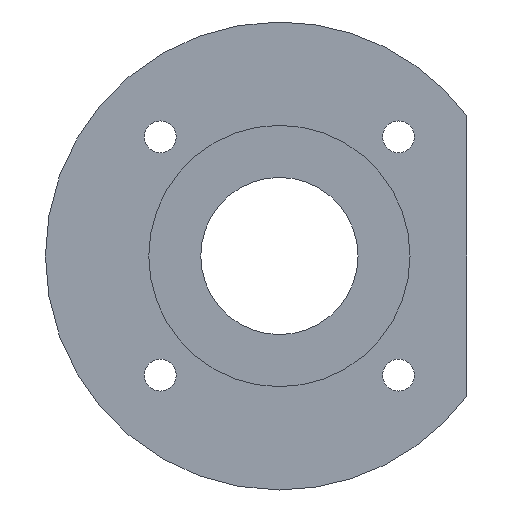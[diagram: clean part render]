
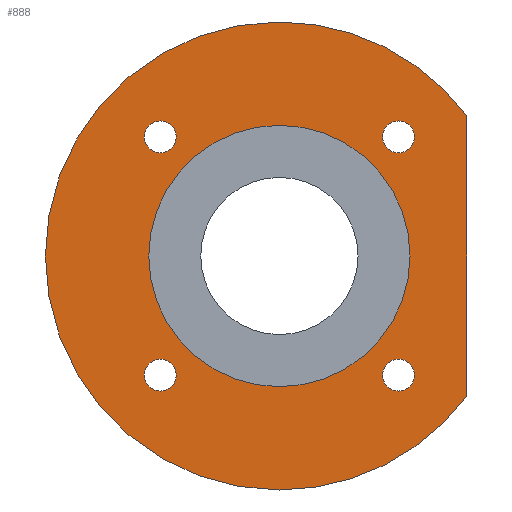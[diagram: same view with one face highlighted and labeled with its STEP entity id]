
A CAD part, left-side view. The second image highlights one B-rep face of the part: STEP entity #888.
In plain terms, the highlighted planar face has unit normal (-1, 0, 0).
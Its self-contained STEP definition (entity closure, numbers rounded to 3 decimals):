
#37 = CARTESIAN_POINT ( 'NONE',  ( 2., 0., -62.5 ) ) ;
#132 = CIRCLE ( 'NONE', #185, 4.25 ) ;
#134 = FACE_BOUND ( 'NONE', #729, .T. ) ;
#135 = FACE_BOUND ( 'NONE', #879, .T. ) ;
#136 = FACE_BOUND ( 'NONE', #931, .T. ) ;
#137 = DIRECTION ( 'NONE',  ( 1., 0., 0. ) ) ;
#138 = CARTESIAN_POINT ( 'NONE',  ( 2., 62.5, 0. ) ) ;
#140 = FACE_OUTER_BOUND ( 'NONE', #1015, .T. ) ;
#145 = PLANE ( 'NONE',  #193 ) ;
#163 = CARTESIAN_POINT ( 'NONE',  ( 2., -50., -37.5 ) ) ;
#167 = CARTESIAN_POINT ( 'NONE',  ( 2., -31.82, 31.82 ) ) ;
#172 = AXIS2_PLACEMENT_3D ( 'NONE', #167, #227, #226 ) ;
#173 = AXIS2_PLACEMENT_3D ( 'NONE', #190, #221, #204 ) ;
#179 = CIRCLE ( 'NONE', #172, 4.25 ) ;
#182 = DIRECTION ( 'NONE',  ( 0., 0., -1. ) ) ;
#183 = DIRECTION ( 'NONE',  ( 1., 0., 0. ) ) ;
#184 = CARTESIAN_POINT ( 'NONE',  ( 2., -31.82, -31.82 ) ) ;
#185 = AXIS2_PLACEMENT_3D ( 'NONE', #184, #183, #182 ) ;
#189 = DIRECTION ( 'NONE',  ( 0., 0., -1. ) ) ;
#190 = CARTESIAN_POINT ( 'NONE',  ( 2., 0., 0. ) ) ;
#193 = AXIS2_PLACEMENT_3D ( 'NONE', #138, #137, #189 ) ;
#194 = FACE_BOUND ( 'NONE', #1033, .T. ) ;
#195 = FACE_BOUND ( 'NONE', #990, .T. ) ;
#204 = DIRECTION ( 'NONE',  ( 0., 0., 1. ) ) ;
#219 = CIRCLE ( 'NONE', #173, 62.5 ) ;
#221 = DIRECTION ( 'NONE',  ( -1., 0., 0. ) ) ;
#226 = DIRECTION ( 'NONE',  ( 0., 0., -1. ) ) ;
#227 = DIRECTION ( 'NONE',  ( 1., 0., 0. ) ) ;
#261 = DIRECTION ( 'NONE',  ( 0., 0., 1. ) ) ;
#262 = DIRECTION ( 'NONE',  ( -1., 0., 0. ) ) ;
#263 = CARTESIAN_POINT ( 'NONE',  ( 2., 0., 0. ) ) ;
#267 = AXIS2_PLACEMENT_3D ( 'NONE', #263, #262, #261 ) ;
#268 = CIRCLE ( 'NONE', #267, 34.9 ) ;
#271 = CARTESIAN_POINT ( 'NONE',  ( 2., 31.82, 31.82 ) ) ;
#296 = LINE ( 'NONE', #334, #333 ) ;
#298 = DIRECTION ( 'NONE',  ( 0., 0., -1. ) ) ;
#299 = DIRECTION ( 'NONE',  ( 1., 0., 0. ) ) ;
#300 = AXIS2_PLACEMENT_3D ( 'NONE', #271, #299, #298 ) ;
#302 = CIRCLE ( 'NONE', #335, 4.25 ) ;
#309 = CIRCLE ( 'NONE', #300, 4.25 ) ;
#324 = DIRECTION ( 'NONE',  ( 0., 0., -1. ) ) ;
#325 = DIRECTION ( 'NONE',  ( 1., 0., 0. ) ) ;
#326 = CARTESIAN_POINT ( 'NONE',  ( 2., 31.82, -31.82 ) ) ;
#332 = DIRECTION ( 'NONE',  ( 0., 0., -1. ) ) ;
#333 = VECTOR ( 'NONE', #332, 1000. ) ;
#334 = CARTESIAN_POINT ( 'NONE',  ( 2., -50., 37.5 ) ) ;
#335 = AXIS2_PLACEMENT_3D ( 'NONE', #326, #325, #324 ) ;
#439 = CARTESIAN_POINT ( 'NONE',  ( 2., 0., 62.5 ) ) ;
#448 = CARTESIAN_POINT ( 'NONE',  ( 2., -50., 37.5 ) ) ;
#478 = CARTESIAN_POINT ( 'NONE',  ( 2., -31.82, -27.57 ) ) ;
#504 = CARTESIAN_POINT ( 'NONE',  ( 2., 31.82, 27.57 ) ) ;
#509 = AXIS2_PLACEMENT_3D ( 'NONE', #512, #514, #513 ) ;
#511 = CIRCLE ( 'NONE', #509, 34.9 ) ;
#512 = CARTESIAN_POINT ( 'NONE',  ( 2., 0., 0. ) ) ;
#513 = DIRECTION ( 'NONE',  ( 0., 0., 1. ) ) ;
#514 = DIRECTION ( 'NONE',  ( -1., 0., 0. ) ) ;
#533 = CARTESIAN_POINT ( 'NONE',  ( 2., 31.82, 36.07 ) ) ;
#553 = CARTESIAN_POINT ( 'NONE',  ( 2., -31.82, -36.07 ) ) ;
#595 = EDGE_CURVE ( 'NONE', #636, #629, #1064, .T. ) ;
#610 = EDGE_CURVE ( 'NONE', #652, #639, #1117, .T. ) ;
#629 = VERTEX_POINT ( 'NONE', #1101 ) ;
#632 = EDGE_CURVE ( 'NONE', #681, #708, #1105, .T. ) ;
#636 = VERTEX_POINT ( 'NONE', #1065 ) ;
#639 = VERTEX_POINT ( 'NONE', #1167 ) ;
#651 = EDGE_CURVE ( 'NONE', #701, #685, #1173, .T. ) ;
#652 = VERTEX_POINT ( 'NONE', #1072 ) ;
#681 = VERTEX_POINT ( 'NONE', #478 ) ;
#685 = VERTEX_POINT ( 'NONE', #504 ) ;
#701 = VERTEX_POINT ( 'NONE', #533 ) ;
#708 = VERTEX_POINT ( 'NONE', #553 ) ;
#725 = VERTEX_POINT ( 'NONE', #934 ) ;
#729 = EDGE_LOOP ( 'NONE', ( #890, #1000 ) ) ;
#736 = EDGE_CURVE ( 'NONE', #737, #804, #1188, .T. ) ;
#737 = VERTEX_POINT ( 'NONE', #439 ) ;
#768 = EDGE_CURVE ( 'NONE', #772, #725, #511, .T. ) ;
#772 = VERTEX_POINT ( 'NONE', #1175 ) ;
#792 = EDGE_CURVE ( 'NONE', #796, #737, #983, .T. ) ;
#796 = VERTEX_POINT ( 'NONE', #448 ) ;
#804 = VERTEX_POINT ( 'NONE', #37 ) ;
#878 = VERTEX_POINT ( 'NONE', #163 ) ;
#879 = EDGE_LOOP ( 'NONE', ( #880, #897 ) ) ;
#880 = ORIENTED_EDGE ( 'NONE', *, *, #917, .T. ) ;
#888 = ADVANCED_FACE ( 'NONE', ( #136, #135, #134, #195, #194, #140 ), #145, .F. ) ;
#890 = ORIENTED_EDGE ( 'NONE', *, *, #1022, .T. ) ;
#897 = ORIENTED_EDGE ( 'NONE', *, *, #595, .T. ) ;
#898 = ORIENTED_EDGE ( 'NONE', *, *, #632, .T. ) ;
#899 = EDGE_CURVE ( 'NONE', #708, #681, #132, .T. ) ;
#905 = ORIENTED_EDGE ( 'NONE', *, *, #899, .T. ) ;
#917 = EDGE_CURVE ( 'NONE', #629, #636, #179, .T. ) ;
#925 = EDGE_CURVE ( 'NONE', #804, #878, #219, .T. ) ;
#931 = EDGE_LOOP ( 'NONE', ( #905, #898 ) ) ;
#932 = DIRECTION ( 'NONE',  ( -1., 0., 0. ) ) ;
#934 = CARTESIAN_POINT ( 'NONE',  ( 2., 0., -34.9 ) ) ;
#951 = DIRECTION ( 'NONE',  ( 0., 0., 1. ) ) ;
#982 = AXIS2_PLACEMENT_3D ( 'NONE', #1031, #932, #951 ) ;
#983 = CIRCLE ( 'NONE', #982, 62.5 ) ;
#990 = EDGE_LOOP ( 'NONE', ( #1014, #1023 ) ) ;
#991 = ORIENTED_EDGE ( 'NONE', *, *, #792, .T. ) ;
#996 = ORIENTED_EDGE ( 'NONE', *, *, #1045, .F. ) ;
#1000 = ORIENTED_EDGE ( 'NONE', *, *, #651, .T. ) ;
#1013 = EDGE_CURVE ( 'NONE', #725, #772, #268, .T. ) ;
#1014 = ORIENTED_EDGE ( 'NONE', *, *, #1050, .T. ) ;
#1015 = EDGE_LOOP ( 'NONE', ( #991, #1044, #1051, #996 ) ) ;
#1022 = EDGE_CURVE ( 'NONE', #685, #701, #309, .T. ) ;
#1023 = ORIENTED_EDGE ( 'NONE', *, *, #610, .T. ) ;
#1027 = ORIENTED_EDGE ( 'NONE', *, *, #768, .F. ) ;
#1031 = CARTESIAN_POINT ( 'NONE',  ( 2., 0., 0. ) ) ;
#1033 = EDGE_LOOP ( 'NONE', ( #1027, #1049 ) ) ;
#1044 = ORIENTED_EDGE ( 'NONE', *, *, #736, .T. ) ;
#1045 = EDGE_CURVE ( 'NONE', #796, #878, #296, .T. ) ;
#1049 = ORIENTED_EDGE ( 'NONE', *, *, #1013, .F. ) ;
#1050 = EDGE_CURVE ( 'NONE', #639, #652, #302, .T. ) ;
#1051 = ORIENTED_EDGE ( 'NONE', *, *, #925, .T. ) ;
#1064 = CIRCLE ( 'NONE', #1071, 4.25 ) ;
#1065 = CARTESIAN_POINT ( 'NONE',  ( 2., -31.82, 36.07 ) ) ;
#1068 = DIRECTION ( 'NONE',  ( 0., 0., -1. ) ) ;
#1069 = DIRECTION ( 'NONE',  ( 1., 0., 0. ) ) ;
#1070 = CARTESIAN_POINT ( 'NONE',  ( 2., -31.82, 31.82 ) ) ;
#1071 = AXIS2_PLACEMENT_3D ( 'NONE', #1070, #1069, #1068 ) ;
#1072 = CARTESIAN_POINT ( 'NONE',  ( 2., 31.82, -27.57 ) ) ;
#1089 = DIRECTION ( 'NONE',  ( 0., 0., -1. ) ) ;
#1090 = DIRECTION ( 'NONE',  ( 1., 0., 0. ) ) ;
#1101 = CARTESIAN_POINT ( 'NONE',  ( 2., -31.82, 27.57 ) ) ;
#1105 = CIRCLE ( 'NONE', #1142, 4.25 ) ;
#1111 = DIRECTION ( 'NONE',  ( 0., 0., -1. ) ) ;
#1112 = DIRECTION ( 'NONE',  ( 1., 0., 0. ) ) ;
#1117 = CIRCLE ( 'NONE', #1135, 4.25 ) ;
#1118 = CARTESIAN_POINT ( 'NONE',  ( 2., 31.82, -31.82 ) ) ;
#1119 = CARTESIAN_POINT ( 'NONE',  ( 2., -31.82, -31.82 ) ) ;
#1135 = AXIS2_PLACEMENT_3D ( 'NONE', #1118, #1090, #1089 ) ;
#1142 = AXIS2_PLACEMENT_3D ( 'NONE', #1119, #1112, #1111 ) ;
#1167 = CARTESIAN_POINT ( 'NONE',  ( 2., 31.82, -36.07 ) ) ;
#1169 = DIRECTION ( 'NONE',  ( 0., 0., -1. ) ) ;
#1170 = DIRECTION ( 'NONE',  ( 1., 0., 0. ) ) ;
#1171 = CARTESIAN_POINT ( 'NONE',  ( 2., 31.82, 31.82 ) ) ;
#1172 = AXIS2_PLACEMENT_3D ( 'NONE', #1171, #1170, #1169 ) ;
#1173 = CIRCLE ( 'NONE', #1172, 4.25 ) ;
#1175 = CARTESIAN_POINT ( 'NONE',  ( 2., 0., 34.9 ) ) ;
#1183 = DIRECTION ( 'NONE',  ( -1., 0., 0. ) ) ;
#1184 = DIRECTION ( 'NONE',  ( 0., 0., 1. ) ) ;
#1187 = AXIS2_PLACEMENT_3D ( 'NONE', #1189, #1183, #1184 ) ;
#1188 = CIRCLE ( 'NONE', #1187, 62.5 ) ;
#1189 = CARTESIAN_POINT ( 'NONE',  ( 2., 0., 0. ) ) ;
